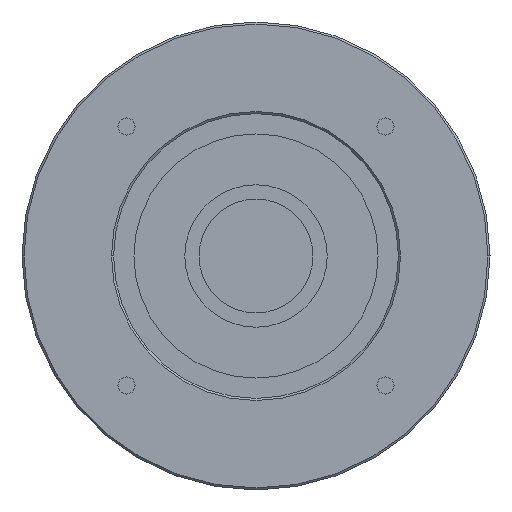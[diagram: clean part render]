
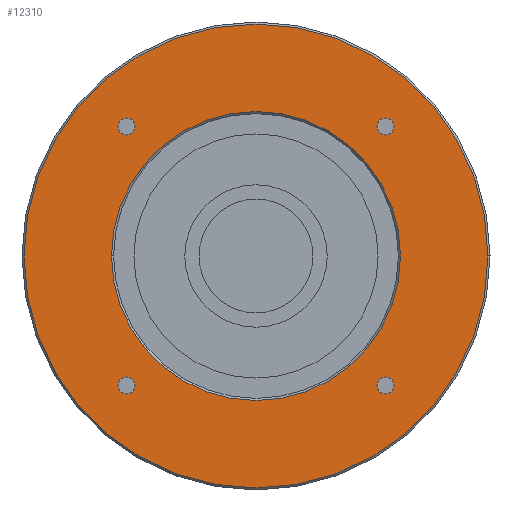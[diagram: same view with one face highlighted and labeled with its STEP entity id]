
A CAD part, left-side view. The second image highlights one B-rep face of the part: STEP entity #12310.
In plain terms, the highlighted planar face has unit normal (-1, 0, 0) as drawn and (0, 0, -1) by its records, which use the part's own axes.
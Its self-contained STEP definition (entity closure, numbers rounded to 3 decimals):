
#8820=CARTESIAN_POINT('',(31.82,-29.72,-63.6));
#8830=VERTEX_POINT('',#8820);
#8880=CARTESIAN_POINT('',(31.82,-31.82,-63.6));
#8890=DIRECTION('',(0.,0.,-1.));
#8900=DIRECTION('',(1.,0.,0.));
#8910=AXIS2_PLACEMENT_3D('',#8880,#8890,#8900);
#8920=CIRCLE('',#8910,2.1);
#8930=CARTESIAN_POINT('',(31.82,-33.92,-63.6));
#8940=VERTEX_POINT('',#8930);
#8950=EDGE_CURVE('',#8940,#8830,#8920,.T.);
#9240=CARTESIAN_POINT('',(31.82,33.92,-63.6));
#9250=VERTEX_POINT('',#9240);
#9300=CARTESIAN_POINT('',(31.82,31.82,-63.6));
#9310=DIRECTION('',(0.,0.,-1.));
#9320=DIRECTION('',(1.,0.,0.));
#9330=AXIS2_PLACEMENT_3D('',#9300,#9310,#9320);
#9340=CIRCLE('',#9330,2.1);
#9350=CARTESIAN_POINT('',(31.82,29.72,-63.6));
#9360=VERTEX_POINT('',#9350);
#9370=EDGE_CURVE('',#9360,#9250,#9340,.T.);
#11140=CARTESIAN_POINT('',(57.,0.,-63.6));
#11150=VERTEX_POINT('',#11140);
#11180=CARTESIAN_POINT('',(0.,0.,
-63.6));
#11190=DIRECTION('',(0.,0.,-1.));
#11200=DIRECTION('',(0.,-1.,0.));
#11210=AXIS2_PLACEMENT_3D('',#11180,#11190,#11200);
#11220=CIRCLE('',#11210,57.);
#11230=CARTESIAN_POINT('',(0.,-57.,-63.6));
#11240=VERTEX_POINT('',#11230);
#11250=EDGE_CURVE('',#11150,#11240,#11220,.T.);
#11270=CARTESIAN_POINT('',(-57.,0.,-63.6));
#11280=VERTEX_POINT('',#11270);
#11290=EDGE_CURVE('',#11240,#11280,#11220,.T.);
#11450=CARTESIAN_POINT('',(0.,0.,
-63.6));
#11460=DIRECTION('',(0.,0.,-1.));
#11470=DIRECTION('',(0.,-1.,0.));
#11480=AXIS2_PLACEMENT_3D('',#11450,#11460,#11470);
#11490=PLANE('',#11480);
#11500=EDGE_CURVE('',#11280,#11150,#11220,.T.);
#11510=ORIENTED_EDGE('',*,*,#11500,.T.);
#11520=ORIENTED_EDGE('',*,*,#11290,.T.);
#11530=ORIENTED_EDGE('',*,*,#11250,.T.);
#11540=EDGE_LOOP('',(#11530,#11520,#11510));
#11550=FACE_OUTER_BOUND('',#11540,.T.);
#11560=CARTESIAN_POINT('',(0.,0.,
-63.6));
#11570=DIRECTION('',(0.,0.,-1.));
#11580=DIRECTION('',(0.,-1.,0.));
#11590=AXIS2_PLACEMENT_3D('',#11560,#11570,#11580);
#11600=CIRCLE('',#11590,35.5);
#11610=CARTESIAN_POINT('',(0.,-35.5,-63.6));
#11620=VERTEX_POINT('',#11610);
#11630=CARTESIAN_POINT('',(-35.5,0.,-63.6));
#11640=VERTEX_POINT('',#11630);
#11650=EDGE_CURVE('',#11620,#11640,#11600,.T.);
#11660=ORIENTED_EDGE('',*,*,#11650,.F.);
#11670=CARTESIAN_POINT('',(35.5,0.,-63.6));
#11680=VERTEX_POINT('',#11670);
#11690=EDGE_CURVE('',#11640,#11680,#11600,.T.);
#11700=ORIENTED_EDGE('',*,*,#11690,.F.);
#11710=EDGE_CURVE('',#11680,#11620,#11600,.T.);
#11720=ORIENTED_EDGE('',*,*,#11710,.F.);
#11730=EDGE_LOOP('',(#11720,#11700,#11660));
#11740=FACE_BOUND('',#11730,.T.);
#11750=CARTESIAN_POINT('',(-31.82,-31.82,-63.6));
#11760=DIRECTION('',(0.,0.,-1.));
#11770=DIRECTION('',(1.,0.,0.));
#11780=AXIS2_PLACEMENT_3D('',#11750,#11760,#11770);
#11790=CIRCLE('',#11780,2.1);
#11800=CARTESIAN_POINT('',(-29.72,-31.82,-63.6));
#11810=VERTEX_POINT('',#11800);
#11820=CARTESIAN_POINT('',(-31.82,-33.92,-63.6));
#11830=VERTEX_POINT('',#11820);
#11840=EDGE_CURVE('',#11810,#11830,#11790,.T.);
#11850=ORIENTED_EDGE('',*,*,#11840,.F.);
#11860=CARTESIAN_POINT('',(-31.82,-29.72,-63.6));
#11870=VERTEX_POINT('',#11860);
#11880=EDGE_CURVE('',#11830,#11870,#11790,.T.);
#11890=ORIENTED_EDGE('',*,*,#11880,.F.);
#11900=EDGE_CURVE('',#11870,#11810,#11790,.T.);
#11910=ORIENTED_EDGE('',*,*,#11900,.F.);
#11920=EDGE_LOOP('',(#11910,#11890,#11850));
#11930=FACE_BOUND('',#11920,.T.);
#11940=CARTESIAN_POINT('',(-31.82,31.82,-63.6));
#11950=DIRECTION('',(0.,0.,-1.));
#11960=DIRECTION('',(1.,0.,0.));
#11970=AXIS2_PLACEMENT_3D('',#11940,#11950,#11960);
#11980=CIRCLE('',#11970,2.1);
#11990=CARTESIAN_POINT('',(-29.72,31.82,-63.6));
#12000=VERTEX_POINT('',#11990);
#12010=CARTESIAN_POINT('',(-31.82,29.72,-63.6));
#12020=VERTEX_POINT('',#12010);
#12030=EDGE_CURVE('',#12000,#12020,#11980,.T.);
#12040=ORIENTED_EDGE('',*,*,#12030,.F.);
#12050=CARTESIAN_POINT('',(-31.82,33.92,-63.6));
#12060=VERTEX_POINT('',#12050);
#12070=EDGE_CURVE('',#12020,#12060,#11980,.T.);
#12080=ORIENTED_EDGE('',*,*,#12070,.F.);
#12090=EDGE_CURVE('',#12060,#12000,#11980,.T.);
#12100=ORIENTED_EDGE('',*,*,#12090,.F.);
#12110=EDGE_LOOP('',(#12100,#12080,#12040));
#12120=FACE_BOUND('',#12110,.T.);
#12130=CARTESIAN_POINT('',(33.92,31.82,-63.6));
#12140=VERTEX_POINT('',#12130);
#12150=EDGE_CURVE('',#12140,#9360,#9340,.T.);
#12160=ORIENTED_EDGE('',*,*,#12150,.F.);
#12170=ORIENTED_EDGE('',*,*,#9370,.F.);
#12180=EDGE_CURVE('',#9250,#12140,#9340,.T.);
#12190=ORIENTED_EDGE('',*,*,#12180,.F.);
#12200=EDGE_LOOP('',(#12190,#12170,#12160));
#12210=FACE_BOUND('',#12200,.T.);
#12220=CARTESIAN_POINT('',(33.92,-31.82,-63.6));
#12230=VERTEX_POINT('',#12220);
#12240=EDGE_CURVE('',#12230,#8940,#8920,.T.);
#12250=ORIENTED_EDGE('',*,*,#12240,.F.);
#12260=ORIENTED_EDGE('',*,*,#8950,.F.);
#12270=EDGE_CURVE('',#8830,#12230,#8920,.T.);
#12280=ORIENTED_EDGE('',*,*,#12270,.F.);
#12290=EDGE_LOOP('',(#12280,#12260,#12250));
#12300=FACE_BOUND('',#12290,.T.);
#12310=ADVANCED_FACE('',(#11550,#11740,#11930,#12120,#12210,#12300),
#11490,.T.);
